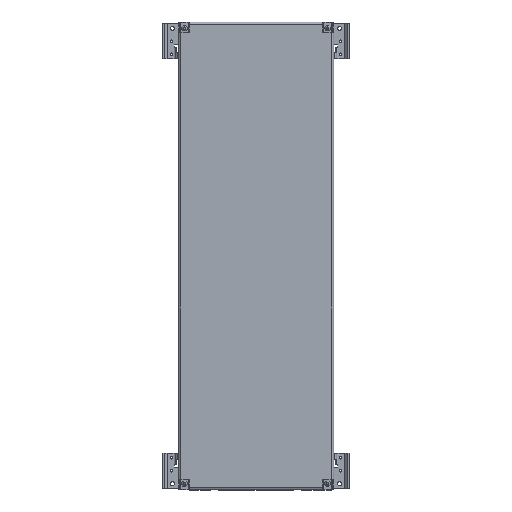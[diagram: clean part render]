
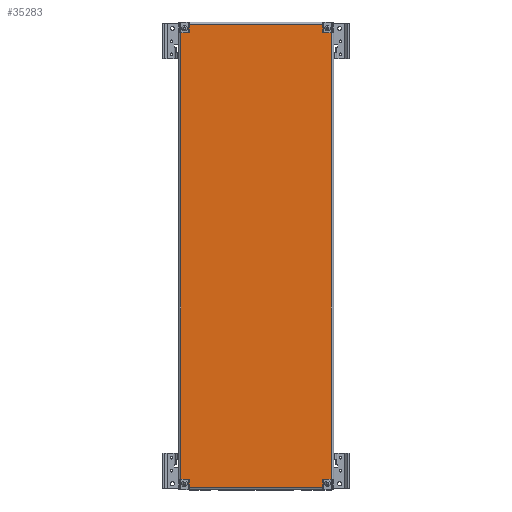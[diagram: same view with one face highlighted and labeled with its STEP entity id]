
A CAD part, top view. The second image highlights one B-rep face of the part: STEP entity #35283.
In plain terms, the highlighted planar face has unit normal (0, 0, 1).
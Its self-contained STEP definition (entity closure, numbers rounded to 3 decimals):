
#32 = FACE_OUTER_BOUND ( 'NONE', #13425, .T. ) ;
#476 = CARTESIAN_POINT ( 'NONE',  ( -129.5, 429.5, 0. ) ) ;
#994 = ORIENTED_EDGE ( 'NONE', *, *, #9638, .T. ) ;
#1288 = VECTOR ( 'NONE', #17048, 1000. ) ;
#1638 = EDGE_CURVE ( 'NONE', #24283, #8756, #24963, .T. ) ;
#2783 = VECTOR ( 'NONE', #12361, 1000. ) ;
#3051 = CARTESIAN_POINT ( 'NONE',  ( -128.5, -449.5, 0. ) ) ;
#3761 = DIRECTION ( 'NONE',  ( 1., 0., 0. ) ) ;
#3919 = EDGE_CURVE ( 'NONE', #11261, #34419, #38970, .T. ) ;
#5088 = CARTESIAN_POINT ( 'NONE',  ( 128.5, 444.5, 0. ) ) ;
#5416 = EDGE_CURVE ( 'NONE', #36035, #8756, #31815, .T. ) ;
#6194 = ORIENTED_EDGE ( 'NONE', *, *, #13517, .F. ) ;
#7959 = DIRECTION ( 'NONE',  ( 0., -1., 0. ) ) ;
#7986 = EDGE_CURVE ( 'NONE', #24283, #21596, #40284, .T. ) ;
#8038 = EDGE_CURVE ( 'NONE', #36035, #34419, #39681, .T. ) ;
#8127 = AXIS2_PLACEMENT_3D ( 'NONE', #14353, #29872, #10802 ) ;
#8163 = LINE ( 'NONE', #5088, #13571 ) ;
#8299 = CARTESIAN_POINT ( 'NONE',  ( -128.5, -444.5, 0. ) ) ;
#8522 = DIRECTION ( 'NONE',  ( 1., 0., 0. ) ) ;
#8756 = VERTEX_POINT ( 'NONE', #23917 ) ;
#9437 = VECTOR ( 'NONE', #7959, 1000. ) ;
#9638 = EDGE_CURVE ( 'NONE', #38406, #14086, #8163, .T. ) ;
#10146 = EDGE_CURVE ( 'NONE', #18135, #25040, #13059, .T. ) ;
#10488 = ORIENTED_EDGE ( 'NONE', *, *, #1638, .F. ) ;
#10549 = DIRECTION ( 'NONE',  ( 0., 0., -1. ) ) ;
#10802 = DIRECTION ( 'NONE',  ( 1., 0., 0. ) ) ;
#10863 = DIRECTION ( 'NONE',  ( 0., 0., -1. ) ) ;
#10951 = DIRECTION ( 'NONE',  ( -1., 0., 0. ) ) ;
#11261 = VERTEX_POINT ( 'NONE', #32852 ) ;
#11630 = LINE ( 'NONE', #11859, #30982 ) ;
#11859 = CARTESIAN_POINT ( 'NONE',  ( 128.5, 449.5, 0. ) ) ;
#12099 = ORIENTED_EDGE ( 'NONE', *, *, #35726, .F. ) ;
#12152 = LINE ( 'NONE', #27456, #2783 ) ;
#12361 = DIRECTION ( 'NONE',  ( 0., 1., 0. ) ) ;
#12454 = VECTOR ( 'NONE', #10951, 1000. ) ;
#12492 = CARTESIAN_POINT ( 'NONE',  ( 128.5, 429.5, 0. ) ) ;
#13033 = ORIENTED_EDGE ( 'NONE', *, *, #32568, .F. ) ;
#13059 = LINE ( 'NONE', #25677, #38021 ) ;
#13425 = EDGE_LOOP ( 'NONE', ( #10488, #15633, #12099, #26396, #32553, #32962, #34554, #23966, #6194, #994, #13033, #26346, #36552, #35600, #17677, #24378 ) ) ;
#13517 = EDGE_CURVE ( 'NONE', #38406, #13525, #11630, .T. ) ;
#13525 = VERTEX_POINT ( 'NONE', #12492 ) ;
#13551 = AXIS2_PLACEMENT_3D ( 'NONE', #476, #10549, #14110 ) ;
#13571 = VECTOR ( 'NONE', #30118, 1000. ) ;
#14086 = VERTEX_POINT ( 'NONE', #36544 ) ;
#14110 = DIRECTION ( 'NONE',  ( 1., 0., 0. ) ) ;
#14187 = VERTEX_POINT ( 'NONE', #34014 ) ;
#14221 = DIRECTION ( 'NONE',  ( 1., 0., 0. ) ) ;
#14353 = CARTESIAN_POINT ( 'NONE',  ( 129.5, 429.5, 0. ) ) ;
#14404 = CARTESIAN_POINT ( 'NONE',  ( -144.5, 428.5, 0. ) ) ;
#14409 = CARTESIAN_POINT ( 'NONE',  ( -129.5, 428.5, 0. ) ) ;
#14473 = AXIS2_PLACEMENT_3D ( 'NONE', #32203, #35860, #20011 ) ;
#14629 = CARTESIAN_POINT ( 'NONE',  ( -144.5, -428.5, 0. ) ) ;
#14772 = LINE ( 'NONE', #36840, #33237 ) ;
#15440 = EDGE_CURVE ( 'NONE', #14187, #23127, #19698, .T. ) ;
#15464 = CARTESIAN_POINT ( 'NONE',  ( 129.5, -429.5, 0. ) ) ;
#15633 = ORIENTED_EDGE ( 'NONE', *, *, #7986, .T. ) ;
#16414 = CARTESIAN_POINT ( 'NONE',  ( 129.5, -428.5, 0. ) ) ;
#17048 = DIRECTION ( 'NONE',  ( 0., -1., 0. ) ) ;
#17677 = ORIENTED_EDGE ( 'NONE', *, *, #8038, .F. ) ;
#18135 = VERTEX_POINT ( 'NONE', #39863 ) ;
#19424 = VECTOR ( 'NONE', #22895, 1000. ) ;
#19494 = CIRCLE ( 'NONE', #13551, 1. ) ;
#19698 = CIRCLE ( 'NONE', #20962, 1. ) ;
#20011 = DIRECTION ( 'NONE',  ( 1., 0., 0. ) ) ;
#20097 = LINE ( 'NONE', #29399, #12454 ) ;
#20573 = CARTESIAN_POINT ( 'NONE',  ( 128.5, 444.5, 0. ) ) ;
#20962 = AXIS2_PLACEMENT_3D ( 'NONE', #15464, #28047, #28261 ) ;
#20980 = EDGE_CURVE ( 'NONE', #35571, #25081, #19494, .T. ) ;
#21596 = VERTEX_POINT ( 'NONE', #25201 ) ;
#21785 = DIRECTION ( 'NONE',  ( 0., -1., 0. ) ) ;
#22895 = DIRECTION ( 'NONE',  ( 0., 1., 0. ) ) ;
#23127 = VERTEX_POINT ( 'NONE', #16414 ) ;
#23917 = CARTESIAN_POINT ( 'NONE',  ( -128.5, -429.5, 0. ) ) ;
#23966 = ORIENTED_EDGE ( 'NONE', *, *, #34123, .T. ) ;
#24283 = VERTEX_POINT ( 'NONE', #8299 ) ;
#24378 = ORIENTED_EDGE ( 'NONE', *, *, #5416, .T. ) ;
#24524 = CARTESIAN_POINT ( 'NONE',  ( 144.5, 428.5, 0. ) ) ;
#24676 = VECTOR ( 'NONE', #30423, 1000. ) ;
#24963 = LINE ( 'NONE', #3051, #39194 ) ;
#25040 = VERTEX_POINT ( 'NONE', #24524 ) ;
#25081 = VERTEX_POINT ( 'NONE', #14409 ) ;
#25201 = CARTESIAN_POINT ( 'NONE',  ( 128.5, -444.5, 0. ) ) ;
#25624 = CARTESIAN_POINT ( 'NONE',  ( 144.5, -428.5, 0. ) ) ;
#25677 = CARTESIAN_POINT ( 'NONE',  ( 149.5, 428.5, 0. ) ) ;
#26346 = ORIENTED_EDGE ( 'NONE', *, *, #20980, .T. ) ;
#26396 = ORIENTED_EDGE ( 'NONE', *, *, #15440, .T. ) ;
#26826 = CARTESIAN_POINT ( 'NONE',  ( -129.5, -429.5, 0. ) ) ;
#27202 = EDGE_CURVE ( 'NONE', #11261, #25081, #14772, .T. ) ;
#27456 = CARTESIAN_POINT ( 'NONE',  ( -128.5, 449.5, 0. ) ) ;
#28047 = DIRECTION ( 'NONE',  ( 0., 0., -1. ) ) ;
#28261 = DIRECTION ( 'NONE',  ( 1., 0., 0. ) ) ;
#29160 = AXIS2_PLACEMENT_3D ( 'NONE', #26826, #10863, #14221 ) ;
#29399 = CARTESIAN_POINT ( 'NONE',  ( 149.5, -428.5, 0. ) ) ;
#29458 = LINE ( 'NONE', #32940, #1288 ) ;
#29872 = DIRECTION ( 'NONE',  ( 0., 0., -1. ) ) ;
#30118 = DIRECTION ( 'NONE',  ( -1., 0., 0. ) ) ;
#30213 = CARTESIAN_POINT ( 'NONE',  ( -149.5, -428.5, 0. ) ) ;
#30423 = DIRECTION ( 'NONE',  ( -1., 0., 0. ) ) ;
#30982 = VECTOR ( 'NONE', #21785, 1000. ) ;
#31042 = CARTESIAN_POINT ( 'NONE',  ( -129.5, -428.5, 0. ) ) ;
#31307 = VERTEX_POINT ( 'NONE', #25624 ) ;
#31554 = DIRECTION ( 'NONE',  ( 0., 1., 0. ) ) ;
#31815 = CIRCLE ( 'NONE', #29160, 1. ) ;
#32203 = CARTESIAN_POINT ( 'NONE',  ( 0., 0., 0. ) ) ;
#32553 = ORIENTED_EDGE ( 'NONE', *, *, #35113, .F. ) ;
#32568 = EDGE_CURVE ( 'NONE', #35571, #14086, #12152, .T. ) ;
#32852 = CARTESIAN_POINT ( 'NONE',  ( -144.5, 428.5, 0. ) ) ;
#32940 = CARTESIAN_POINT ( 'NONE',  ( 128.5, -449.5, 0. ) ) ;
#32962 = ORIENTED_EDGE ( 'NONE', *, *, #39008, .T. ) ;
#33237 = VECTOR ( 'NONE', #8522, 1000. ) ;
#34014 = CARTESIAN_POINT ( 'NONE',  ( 128.5, -429.5, 0. ) ) ;
#34123 = EDGE_CURVE ( 'NONE', #18135, #13525, #39819, .T. ) ;
#34419 = VERTEX_POINT ( 'NONE', #14629 ) ;
#34554 = ORIENTED_EDGE ( 'NONE', *, *, #10146, .F. ) ;
#34586 = VECTOR ( 'NONE', #36574, 1000. ) ;
#35113 = EDGE_CURVE ( 'NONE', #31307, #23127, #20097, .T. ) ;
#35283 = ADVANCED_FACE ( 'NONE', ( #32 ), #38984, .T. ) ;
#35571 = VERTEX_POINT ( 'NONE', #40394 ) ;
#35600 = ORIENTED_EDGE ( 'NONE', *, *, #3919, .T. ) ;
#35726 = EDGE_CURVE ( 'NONE', #14187, #21596, #29458, .T. ) ;
#35860 = DIRECTION ( 'NONE',  ( 0., 0., 1. ) ) ;
#36035 = VERTEX_POINT ( 'NONE', #31042 ) ;
#36265 = LINE ( 'NONE', #38762, #19424 ) ;
#36544 = CARTESIAN_POINT ( 'NONE',  ( -128.5, 444.5, 0. ) ) ;
#36552 = ORIENTED_EDGE ( 'NONE', *, *, #27202, .F. ) ;
#36574 = DIRECTION ( 'NONE',  ( 1., 0., 0. ) ) ;
#36840 = CARTESIAN_POINT ( 'NONE',  ( -149.5, 428.5, 0. ) ) ;
#38021 = VECTOR ( 'NONE', #3761, 1000. ) ;
#38406 = VERTEX_POINT ( 'NONE', #20573 ) ;
#38762 = CARTESIAN_POINT ( 'NONE',  ( 144.5, -428.5, 0. ) ) ;
#38970 = LINE ( 'NONE', #14404, #9437 ) ;
#38984 = PLANE ( 'NONE',  #14473 ) ;
#39008 = EDGE_CURVE ( 'NONE', #31307, #25040, #36265, .T. ) ;
#39194 = VECTOR ( 'NONE', #31554, 1000. ) ;
#39681 = LINE ( 'NONE', #30213, #24676 ) ;
#39819 = CIRCLE ( 'NONE', #8127, 1. ) ;
#39863 = CARTESIAN_POINT ( 'NONE',  ( 129.5, 428.5, 0. ) ) ;
#40284 = LINE ( 'NONE', #40489, #34586 ) ;
#40394 = CARTESIAN_POINT ( 'NONE',  ( -128.5, 429.5, 0. ) ) ;
#40489 = CARTESIAN_POINT ( 'NONE',  ( -128.5, -444.5, 0. ) ) ;
